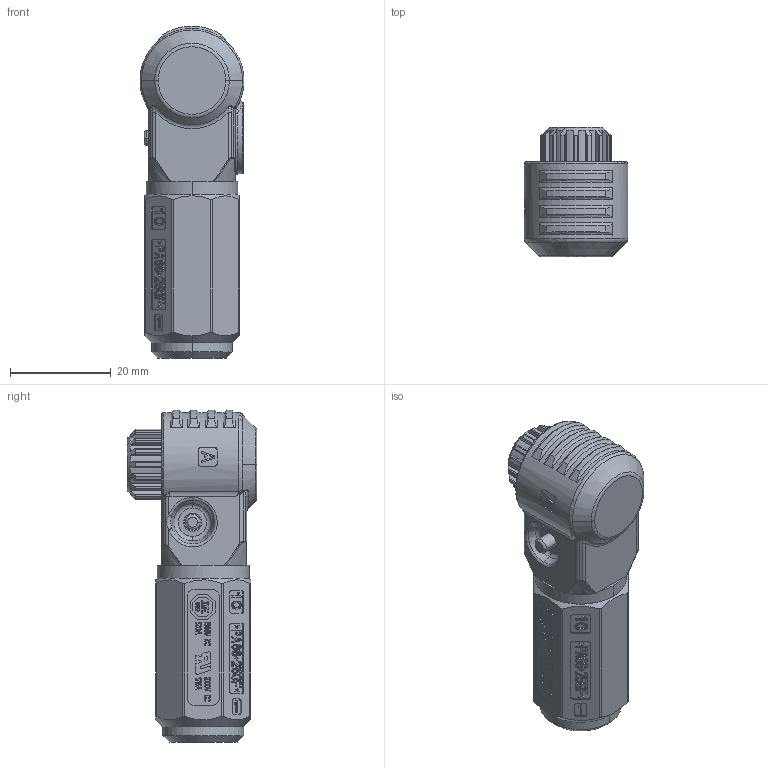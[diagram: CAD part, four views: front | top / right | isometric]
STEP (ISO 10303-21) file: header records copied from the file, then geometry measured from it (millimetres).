
FILE_DESCRIPTION((''),'2;1');
FILE_NAME('HRCT-P0157-A10_1_1','2024-05-30T08:47:14',('zc'),(''),'CREO PARAMETRIC BY PTC INC, 2018050','CREO PARAMETRIC BY PTC INC, 2018050','');
FILE_SCHEMA(('CONFIG_CONTROL_DESIGN'));
Length unit declared in the file: millimetre
Products named in the file (1): HRCT-P0157-A10_1_1
Bounding box: 20.65 x 25.72 x 65.92 mm (x, y, z)
Volume: 17092.9 mm3; surface area: 8688.2 mm2
Topology: 1 solids, 4 shells, 2846 faces, 8172 edges, 5424 vertices
Faces by surface type: plane 1813, extrusion 501, cylinder 252, torus 118, cone 88, bspline 71, sphere 3
Entity records: 104938 total; most frequent: CARTESIAN_POINT 34017, ORIENTED_EDGE 16336, DIRECTION 11859, EDGE_CURVE 8168, VECTOR 5713, VERTEX_POINT 5424, LINE 5212, AXIS2_PLACEMENT_3D 3073
